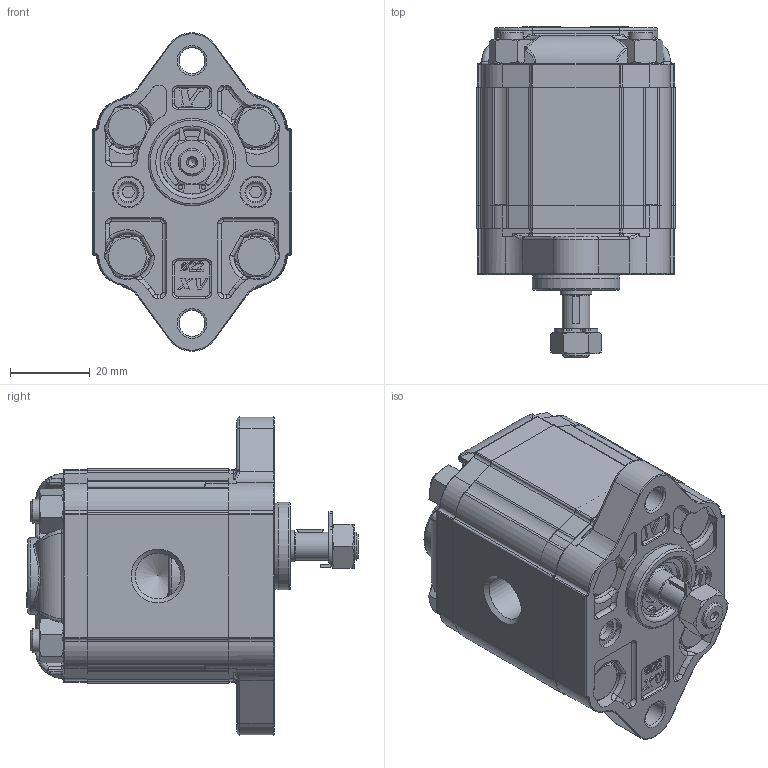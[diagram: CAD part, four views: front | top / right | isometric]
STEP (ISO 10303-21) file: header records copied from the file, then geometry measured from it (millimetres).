
FILE_DESCRIPTION( ( 'Unknown' ), '1' );
FILE_NAME( 'P:/montaggio_easy/output/STP/X0U0701ABBA.stp', 'Unknown', ( 'Unknown' ), ( 'Unknown' ), 'PSStep 14.0', 'Unknown', ' ' );
FILE_SCHEMA( ( 'AUTOMOTIVE_DESIGN { 1 0 10303 214 1 1 1 1 }' ) );
Length unit declared in the file: millimetre
Products named in the file (5): Assem1; X0U01; 0A; X0BBH35,5; XU001-A
Bounding box: 50 x 83.4 x 79.95 mm (x, y, z)
Volume: 277219.8 mm3; surface area: 72518.8 mm2
Topology: 8 solids, 10 shells, 3152 faces, 8226 edges, 5222 vertices
Faces by surface type: plane 1542, cylinder 770, extrusion 248, torus 230, bspline 180, cone 166, sphere 16
Full cylindrical faces by diameter (mm): 1.053 x4, 2 x2, 5 x4, 6 x8, 6.5 x8, 7 x4, 7.25 x2, 7.5 x4, 7.9 x4, 7.92 x2, 8 x4, 9.318 x2, 10 x8, 10.445 x2, 11 x2, 11.445 x4, 14 x2, 16 x2, 16.2 x2, 16.8 x2, 22 x2
Entity records: 67507 total; most frequent: CARTESIAN_POINT 16874, ORIENTED_EDGE 7940, DIRECTION 7703, EDGE_CURVE 3970, AXIS2_PLACEMENT_3D 2666, VERTEX_POINT 2569, VECTOR 2371, LINE 2247
